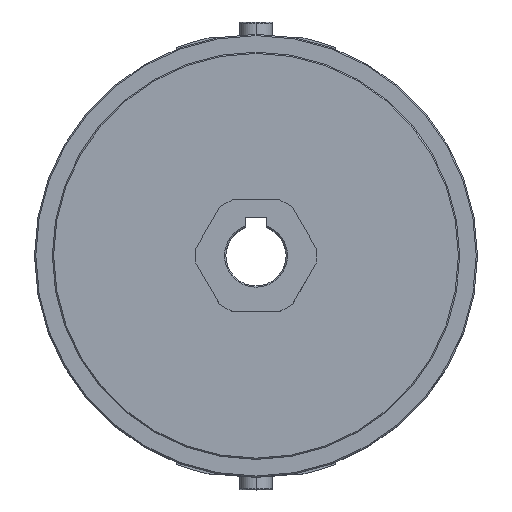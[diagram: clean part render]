
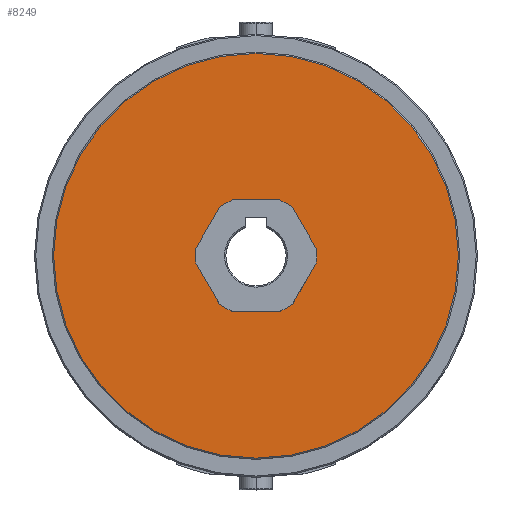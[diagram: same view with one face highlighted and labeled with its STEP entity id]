
A CAD part, top view. The second image highlights one B-rep face of the part: STEP entity #8249.
In plain terms, the highlighted planar face has unit normal (0, 0, 1).
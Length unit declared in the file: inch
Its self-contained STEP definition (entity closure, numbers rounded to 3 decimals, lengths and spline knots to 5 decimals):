
#268 = LINE ( 'NONE', #9368, #4751 ) ;
#323 = DIRECTION ( 'NONE',  ( -1., 0., 0. ) ) ;
#413 = VECTOR ( 'NONE', #7696, 39.37008 ) ;
#438 = VERTEX_POINT ( 'NONE', #685 ) ;
#459 = DIRECTION ( 'NONE',  ( 0., 0., 1. ) ) ;
#538 = CARTESIAN_POINT ( 'NONE',  ( 0.50518, -0.875, -0.5 ) ) ;
#545 = VECTOR ( 'NONE', #3249, 39.37008 ) ;
#685 = CARTESIAN_POINT ( 'NONE',  ( -0.36997, -0.875, -0.5 ) ) ;
#707 = EDGE_LOOP ( 'NONE', ( #3601, #10829 ) ) ;
#806 = VERTEX_POINT ( 'NONE', #5552 ) ;
#837 = ORIENTED_EDGE ( 'NONE', *, *, #7353, .F. ) ;
#926 = EDGE_CURVE ( 'NONE', #1535, #2293, #2726, .T. ) ;
#1088 = CARTESIAN_POINT ( 'NONE',  ( 0., 0., -0.5 ) ) ;
#1172 = CARTESIAN_POINT ( 'NONE',  ( 0., 0.95, -0.5 ) ) ;
#1189 = VERTEX_POINT ( 'NONE', #7231 ) ;
#1309 = DIRECTION ( 'NONE',  ( -0.5, 0.866, 0. ) ) ;
#1349 = DIRECTION ( 'NONE',  ( 1., 0., 0. ) ) ;
#1535 = VERTEX_POINT ( 'NONE', #8624 ) ;
#1565 = CARTESIAN_POINT ( 'NONE',  ( -0.94276, -0.1171, -0.5 ) ) ;
#1755 = CIRCLE ( 'NONE', #7158, 0.95 ) ;
#1790 = CARTESIAN_POINT ( 'NONE',  ( -1.01036, 0., -0.5 ) ) ;
#1878 = VERTEX_POINT ( 'NONE', #11103 ) ;
#1895 = EDGE_LOOP ( 'NONE', ( #6541, #11375, #837, #2271, #9794, #10509, #3063, #9054, #8477, #9989, #5648, #2234, #2216 ) ) ;
#1967 = DIRECTION ( 'NONE',  ( 1., 0., 0. ) ) ;
#2046 = DIRECTION ( 'NONE',  ( 0., 0., -1. ) ) ;
#2162 = CARTESIAN_POINT ( 'NONE',  ( -0.50518, -0.875, -0.5 ) ) ;
#2181 = VECTOR ( 'NONE', #10131, 39.37008 ) ;
#2216 = ORIENTED_EDGE ( 'NONE', *, *, #2696, .F. ) ;
#2234 = ORIENTED_EDGE ( 'NONE', *, *, #926, .F. ) ;
#2238 = EDGE_CURVE ( 'NONE', #7228, #8256, #7835, .T. ) ;
#2271 = ORIENTED_EDGE ( 'NONE', *, *, #6769, .F. ) ;
#2276 = DIRECTION ( 'NONE',  ( 0., 0., 1. ) ) ;
#2293 = VERTEX_POINT ( 'NONE', #1565 ) ;
#2515 = AXIS2_PLACEMENT_3D ( 'NONE', #3878, #10165, #4796 ) ;
#2647 = EDGE_CURVE ( 'NONE', #3578, #438, #7987, .T. ) ;
#2696 = EDGE_CURVE ( 'NONE', #3224, #1535, #10353, .T. ) ;
#2726 = CIRCLE ( 'NONE', #2515, 0.95 ) ;
#2849 = FACE_BOUND ( 'NONE', #1895, .T. ) ;
#2934 = LINE ( 'NONE', #1790, #5052 ) ;
#3059 = CARTESIAN_POINT ( 'NONE',  ( 0.57279, -0.7579, -0.5 ) ) ;
#3063 = ORIENTED_EDGE ( 'NONE', *, *, #5754, .F. ) ;
#3132 = EDGE_CURVE ( 'NONE', #2293, #3578, #2934, .T. ) ;
#3207 = CIRCLE ( 'NONE', #7762, 0.95 ) ;
#3224 = VERTEX_POINT ( 'NONE', #11305 ) ;
#3249 = DIRECTION ( 'NONE',  ( -0.5, -0.866, 0. ) ) ;
#3568 = CARTESIAN_POINT ( 'NONE',  ( 0., 0., -0.5 ) ) ;
#3578 = VERTEX_POINT ( 'NONE', #5476 ) ;
#3601 = ORIENTED_EDGE ( 'NONE', *, *, #4060, .T. ) ;
#3610 = AXIS2_PLACEMENT_3D ( 'NONE', #10570, #5209, #11439 ) ;
#3627 = AXIS2_PLACEMENT_3D ( 'NONE', #1172, #2046, #8331 ) ;
#3827 = CARTESIAN_POINT ( 'NONE',  ( 0.50518, 0.875, -0.5 ) ) ;
#3878 = CARTESIAN_POINT ( 'NONE',  ( 0., 0., -0.5 ) ) ;
#3998 = LINE ( 'NONE', #2162, #8485 ) ;
#4060 = EDGE_CURVE ( 'NONE', #1878, #1189, #4325, .T. ) ;
#4195 = DIRECTION ( 'NONE',  ( 0., 0., 1. ) ) ;
#4325 = CIRCLE ( 'NONE', #8458, 3.175 ) ;
#4473 = DIRECTION ( 'NONE',  ( 1., 0., 0. ) ) ;
#4745 = CARTESIAN_POINT ( 'NONE',  ( 0.94276, -0.1171, -0.5 ) ) ;
#4751 = VECTOR ( 'NONE', #1309, 39.37008 ) ;
#4796 = DIRECTION ( 'NONE',  ( 1., 0., 0. ) ) ;
#4940 = AXIS2_PLACEMENT_3D ( 'NONE', #9578, #4195, #10475 ) ;
#4994 = CARTESIAN_POINT ( 'NONE',  ( 0.94276, 0.1171, -0.5 ) ) ;
#5052 = VECTOR ( 'NONE', #5384, 39.37008 ) ;
#5053 = CARTESIAN_POINT ( 'NONE',  ( 0., 0., -0.5 ) ) ;
#5209 = DIRECTION ( 'NONE',  ( 0., 0., 1. ) ) ;
#5272 = FACE_OUTER_BOUND ( 'NONE', #707, .T. ) ;
#5304 = EDGE_CURVE ( 'NONE', #438, #9178, #3998, .T. ) ;
#5384 = DIRECTION ( 'NONE',  ( 0.5, -0.866, 0. ) ) ;
#5476 = CARTESIAN_POINT ( 'NONE',  ( -0.57279, -0.7579, -0.5 ) ) ;
#5552 = CARTESIAN_POINT ( 'NONE',  ( -0.36997, 0.875, -0.5 ) ) ;
#5599 = CIRCLE ( 'NONE', #10311, 0.95 ) ;
#5648 = ORIENTED_EDGE ( 'NONE', *, *, #3132, .F. ) ;
#5703 = DIRECTION ( 'NONE',  ( 0., 0., 1. ) ) ;
#5754 = EDGE_CURVE ( 'NONE', #9776, #7228, #9950, .T. ) ;
#5834 = CARTESIAN_POINT ( 'NONE',  ( 0., 0., -0.5 ) ) ;
#5894 = EDGE_CURVE ( 'NONE', #1189, #1878, #7982, .T. ) ;
#5971 = DIRECTION ( 'NONE',  ( 1., 0., 0. ) ) ;
#6194 = AXIS2_PLACEMENT_3D ( 'NONE', #1088, #7338, #1967 ) ;
#6541 = ORIENTED_EDGE ( 'NONE', *, *, #10831, .F. ) ;
#6594 = VERTEX_POINT ( 'NONE', #9397 ) ;
#6689 = LINE ( 'NONE', #3827, #2181 ) ;
#6715 = DIRECTION ( 'NONE',  ( 1., 0., 0. ) ) ;
#6769 = EDGE_CURVE ( 'NONE', #8377, #11317, #268, .T. ) ;
#7066 = EDGE_CURVE ( 'NONE', #9178, #9776, #5599, .T. ) ;
#7158 = AXIS2_PLACEMENT_3D ( 'NONE', #5834, #459, #6715 ) ;
#7223 = EDGE_CURVE ( 'NONE', #6594, #806, #6689, .T. ) ;
#7228 = VERTEX_POINT ( 'NONE', #4745 ) ;
#7231 = CARTESIAN_POINT ( 'NONE',  ( 3.175, 0., -0.5 ) ) ;
#7338 = DIRECTION ( 'NONE',  ( 0., 0., 1. ) ) ;
#7353 = EDGE_CURVE ( 'NONE', #11317, #6594, #9642, .T. ) ;
#7444 = CARTESIAN_POINT ( 'NONE',  ( 0.95, 0., -0.5 ) ) ;
#7451 = CARTESIAN_POINT ( 'NONE',  ( 0.57279, 0.7579, -0.5 ) ) ;
#7516 = EDGE_CURVE ( 'NONE', #8256, #8377, #1755, .T. ) ;
#7683 = CARTESIAN_POINT ( 'NONE',  ( 0., 0., -0.5 ) ) ;
#7696 = DIRECTION ( 'NONE',  ( 0.5, 0.866, 0. ) ) ;
#7761 = CARTESIAN_POINT ( 'NONE',  ( 0.36997, -0.875, -0.5 ) ) ;
#7762 = AXIS2_PLACEMENT_3D ( 'NONE', #5053, #11288, #5971 ) ;
#7835 = CIRCLE ( 'NONE', #4940, 0.95 ) ;
#7982 = CIRCLE ( 'NONE', #3610, 3.175 ) ;
#7987 = CIRCLE ( 'NONE', #9537, 0.95 ) ;
#8249 = ADVANCED_FACE ( 'NONE', ( #2849, #5272 ), #9187, .F. ) ;
#8256 = VERTEX_POINT ( 'NONE', #7444 ) ;
#8331 = DIRECTION ( 'NONE',  ( -1., 0., 0. ) ) ;
#8377 = VERTEX_POINT ( 'NONE', #4994 ) ;
#8458 = AXIS2_PLACEMENT_3D ( 'NONE', #11037, #5703, #323 ) ;
#8477 = ORIENTED_EDGE ( 'NONE', *, *, #5304, .F. ) ;
#8485 = VECTOR ( 'NONE', #1349, 39.37008 ) ;
#8576 = DIRECTION ( 'NONE',  ( 1., 0., 0. ) ) ;
#8624 = CARTESIAN_POINT ( 'NONE',  ( -0.94276, 0.1171, -0.5 ) ) ;
#9054 = ORIENTED_EDGE ( 'NONE', *, *, #7066, .F. ) ;
#9178 = VERTEX_POINT ( 'NONE', #7761 ) ;
#9187 = PLANE ( 'NONE',  #3627 ) ;
#9368 = CARTESIAN_POINT ( 'NONE',  ( 1.01036, 0., -0.5 ) ) ;
#9397 = CARTESIAN_POINT ( 'NONE',  ( 0.36997, 0.875, -0.5 ) ) ;
#9528 = CARTESIAN_POINT ( 'NONE',  ( -0.50518, 0.875, -0.5 ) ) ;
#9537 = AXIS2_PLACEMENT_3D ( 'NONE', #7683, #2276, #8576 ) ;
#9578 = CARTESIAN_POINT ( 'NONE',  ( 0., 0., -0.5 ) ) ;
#9642 = CIRCLE ( 'NONE', #6194, 0.95 ) ;
#9776 = VERTEX_POINT ( 'NONE', #3059 ) ;
#9794 = ORIENTED_EDGE ( 'NONE', *, *, #7516, .F. ) ;
#9857 = DIRECTION ( 'NONE',  ( 0., 0., 1. ) ) ;
#9950 = LINE ( 'NONE', #538, #413 ) ;
#9989 = ORIENTED_EDGE ( 'NONE', *, *, #2647, .F. ) ;
#10131 = DIRECTION ( 'NONE',  ( -1., 0., 0. ) ) ;
#10165 = DIRECTION ( 'NONE',  ( 0., 0., 1. ) ) ;
#10311 = AXIS2_PLACEMENT_3D ( 'NONE', #3568, #9857, #4473 ) ;
#10353 = LINE ( 'NONE', #9528, #545 ) ;
#10475 = DIRECTION ( 'NONE',  ( 1., 0., 0. ) ) ;
#10509 = ORIENTED_EDGE ( 'NONE', *, *, #2238, .F. ) ;
#10570 = CARTESIAN_POINT ( 'NONE',  ( 0., 0., -0.5 ) ) ;
#10829 = ORIENTED_EDGE ( 'NONE', *, *, #5894, .T. ) ;
#10831 = EDGE_CURVE ( 'NONE', #806, #3224, #3207, .T. ) ;
#11037 = CARTESIAN_POINT ( 'NONE',  ( 0., 0., -0.5 ) ) ;
#11103 = CARTESIAN_POINT ( 'NONE',  ( -3.175, 0., -0.5 ) ) ;
#11288 = DIRECTION ( 'NONE',  ( 0., 0., 1. ) ) ;
#11305 = CARTESIAN_POINT ( 'NONE',  ( -0.57279, 0.7579, -0.5 ) ) ;
#11317 = VERTEX_POINT ( 'NONE', #7451 ) ;
#11375 = ORIENTED_EDGE ( 'NONE', *, *, #7223, .F. ) ;
#11439 = DIRECTION ( 'NONE',  ( -1., 0., 0. ) ) ;
